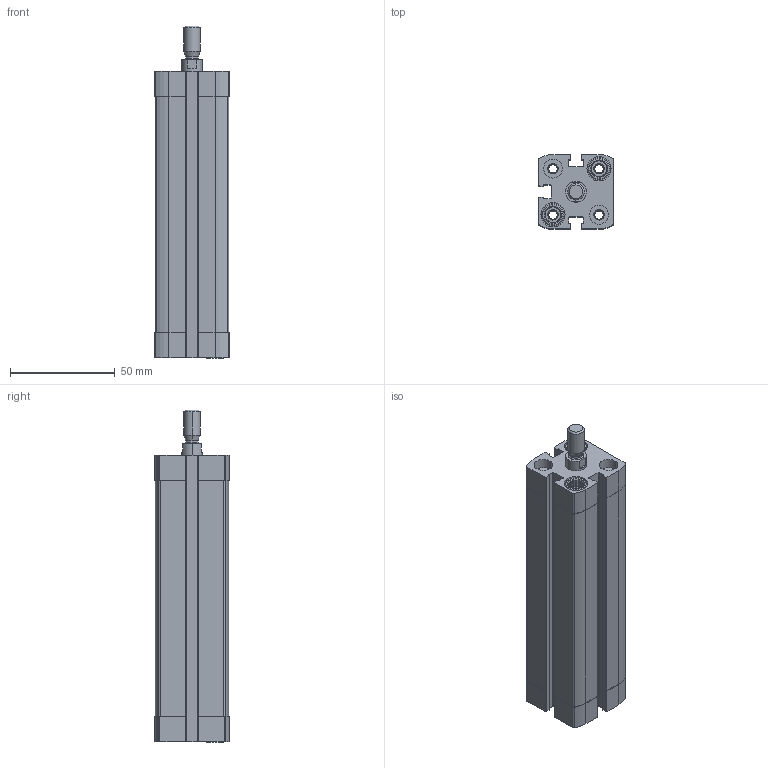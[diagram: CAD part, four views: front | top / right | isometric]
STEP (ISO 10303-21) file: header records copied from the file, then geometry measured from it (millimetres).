
FILE_DESCRIPTION (( 'STEP AP203' ), '1' );
FILE_NAME ('CCN20-100M.STEP', '2017-03-28T17:04:16', ( '' ), ( '' ), 'SwSTEP 2.0', 'SolidWorks 2016', '' );
FILE_SCHEMA (( 'CONFIG_CONTROL_DESIGN' ));
Length unit declared in the file: millimetre
Products named in the file (3): CCN-100---(Z); CCN-100-_(KS); CCN20-100M
Assembly tree (2 placements, depth 2):
  CCN20-100M
    CCN-100---(Z)
    CCN-100-_(KS)
Bounding box: 35.5 x 35.5 x 158.5 mm (x, y, z)
Volume: 117265.2 mm3; surface area: 49775.9 mm2
Topology: 2 solids, 2 shells, 409 faces, 1076 edges, 702 vertices
Faces by surface type: plane 231, cylinder 134, cone 40, bspline 4
Entity records: 13153 total; most frequent: CARTESIAN_POINT 2552, DIRECTION 2206, ORIENTED_EDGE 2152, EDGE_CURVE 1076, AXIS2_PLACEMENT_3D 820, VERTEX_POINT 702, LINE 566, VECTOR 566
